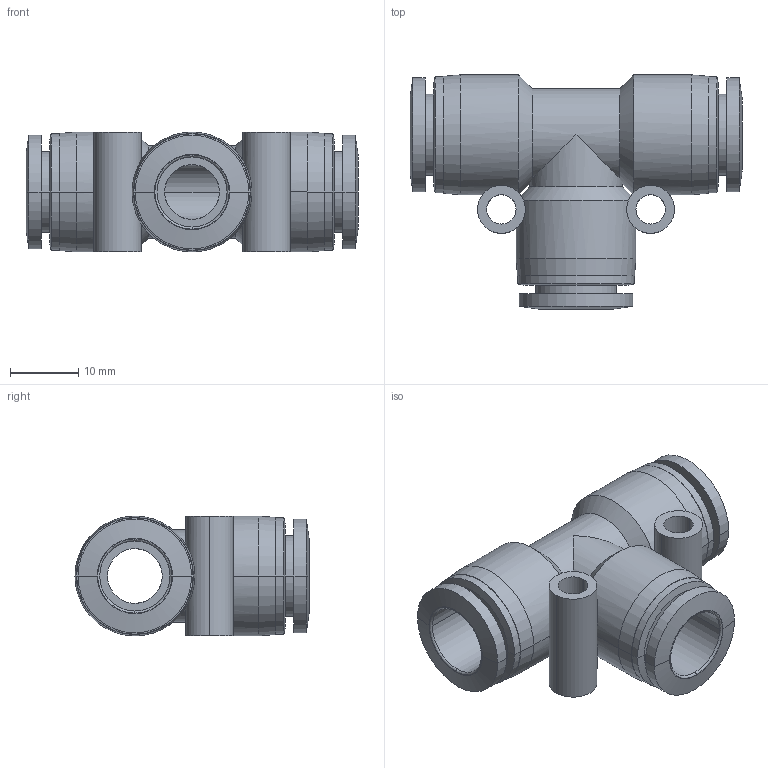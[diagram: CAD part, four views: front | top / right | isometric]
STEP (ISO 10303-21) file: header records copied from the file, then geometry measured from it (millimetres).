
FILE_DESCRIPTION (( 'STEP AP203' ), '1' );
FILE_NAME ('FT10-00.STEP', '2020-05-06T15:26:12', ( '' ), ( '' ), 'SwSTEP 2.0', 'SolidWorks 2019', '' );
FILE_SCHEMA (( 'CONFIG_CONTROL_DESIGN' ));
Length unit declared in the file: millimetre
Products named in the file (1): FT10-00
Bounding box: 48.5 x 34.2 x 17.5 mm (x, y, z)
Volume: 9102.2 mm3; surface area: 7654.2 mm2
Topology: 1 solids, 1 shells, 95 faces, 228 edges, 144 vertices
Faces by surface type: cylinder 46, cone 24, plane 19, bspline 6
Entity records: 3626 total; most frequent: CARTESIAN_POINT 1319, DIRECTION 488, ORIENTED_EDGE 456, EDGE_CURVE 228, AXIS2_PLACEMENT_3D 208, VERTEX_POINT 144, CIRCLE 118, EDGE_LOOP 116
